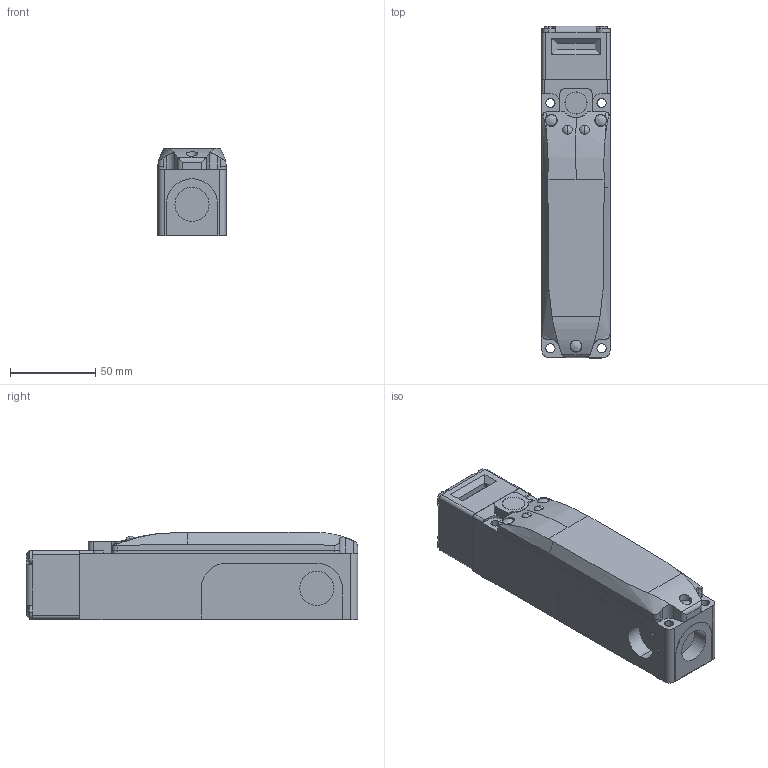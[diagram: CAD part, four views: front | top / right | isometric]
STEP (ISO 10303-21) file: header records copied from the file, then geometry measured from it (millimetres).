
FILE_DESCRIPTION (( 'STEP AP203' ), '1' );
FILE_NAME ('ZF_STEP_FY xxxD1ExA.STEP', '2022-05-05T15:49:34', ( '' ), ( '' ), 'SwSTEP 2.0', 'SolidWorks 2020', '' );
FILE_SCHEMA (( 'CONFIG_CONTROL_DESIGN' ));
Length unit declared in the file: millimetre
Products named in the file (7): FY_3dweb_custodia_Senza sblocco a cacciavite; FY_3dweb_testa_TGD1; FY_3dweb_coperchio cieco_con led; FY_3dweb_testa_default; ZF_STEP_FY xxxD1ExA; FY_3dweb_coperchio_cieco con led
Assembly tree (6 placements, depth 3):
  ZF_STEP_FY xxxD1ExA
    FY_3dweb_custodia_Senza sblocco a cacciavite
      FY_3dweb_custodia_Senza sblocco a cacciavite
    FY_3dweb_testa_default
      FY_3dweb_testa_TGD1
    FY_3dweb_coperchio cieco_con led
      FY_3dweb_coperchio_cieco con led
Bounding box: 40.4 x 194.8 x 51.1 mm (x, y, z)
Volume: 345982.4 mm3; surface area: 59581.2 mm2
Topology: 3 solids, 3 shells, 358 faces, 935 edges, 612 vertices
Faces by surface type: plane 204, cylinder 87, bspline 51, sphere 12, torus 4
Entity records: 13432 total; most frequent: CARTESIAN_POINT 4183, ORIENTED_EDGE 1870, DIRECTION 1583, EDGE_CURVE 935, VERTEX_POINT 612, LINE 599, VECTOR 599, AXIS2_PLACEMENT_3D 492
